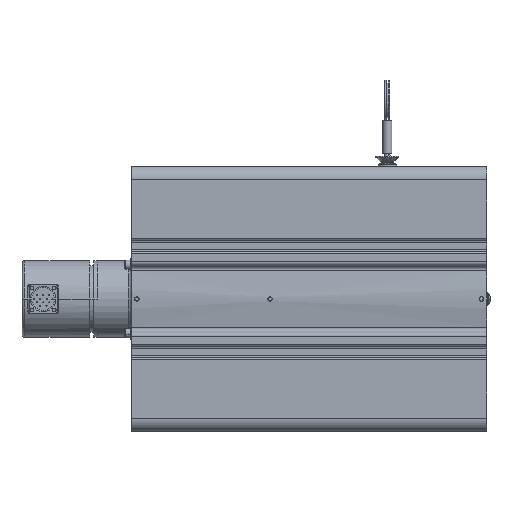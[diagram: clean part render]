
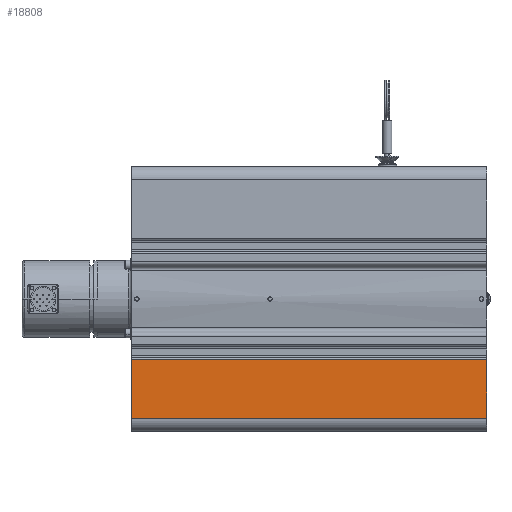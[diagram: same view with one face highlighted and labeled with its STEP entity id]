
A CAD part, front view. The second image highlights one B-rep face of the part: STEP entity #18808.
In plain terms, the highlighted planar face has unit normal (0, -1, 0).
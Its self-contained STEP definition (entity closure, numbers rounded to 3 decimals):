
#263=DIRECTION('',(0.,0.,1.));
#264=VECTOR('',#263,44.275);
#265=CARTESIAN_POINT('',(0.,-99.95,-90.));
#266=LINE('',#265,#264);
#4914=DIRECTION('',(-1.,0.,0.));
#4915=VECTOR('',#4914,268.);
#4916=CARTESIAN_POINT('',(0.,-99.95,-45.725));
#4917=LINE('',#4916,#4915);
#4922=DIRECTION('',(0.,0.,1.));
#4923=VECTOR('',#4922,44.275);
#4924=CARTESIAN_POINT('',(-268.,-99.95,-90.));
#4925=LINE('',#4924,#4923);
#4926=DIRECTION('',(1.,0.,0.));
#4927=VECTOR('',#4926,268.);
#4928=CARTESIAN_POINT('',(-268.,-99.95,-90.));
#4929=LINE('',#4928,#4927);
#12698=CARTESIAN_POINT('',(0.,-99.95,-90.));
#12699=VERTEX_POINT('',#12698);
#12700=CARTESIAN_POINT('',(0.,-99.95,-45.725));
#12701=VERTEX_POINT('',#12700);
#12936=CARTESIAN_POINT('',(-268.,-99.95,-45.725));
#12937=VERTEX_POINT('',#12936);
#12938=CARTESIAN_POINT('',(-268.,-99.95,-90.));
#12939=VERTEX_POINT('',#12938);
#18796=CARTESIAN_POINT('',(0.,-99.95,100.));
#18797=DIRECTION('',(0.,-1.,0.));
#18798=DIRECTION('',(0.,0.,-1.));
#18799=AXIS2_PLACEMENT_3D('',#18796,#18797,#18798);
#18800=PLANE('',#18799);
#18801=ORIENTED_EDGE('',*,*,#18789,.F.);
#18802=ORIENTED_EDGE('',*,*,#13432,.F.);
#18804=ORIENTED_EDGE('',*,*,#18803,.F.);
#18805=ORIENTED_EDGE('',*,*,#14242,.T.);
#18806=EDGE_LOOP('',(#18801,#18802,#18804,#18805));
#18807=FACE_OUTER_BOUND('',#18806,.F.);
#18808=ADVANCED_FACE('',(#18807),#18800,.T.);
#13432=EDGE_CURVE('',#12699,#12701,#266,.T.);
#14242=EDGE_CURVE('',#12939,#12937,#4925,.T.);
#18789=EDGE_CURVE('',#12701,#12937,#4917,.T.);
#18803=EDGE_CURVE('',#12939,#12699,#4929,.T.);
